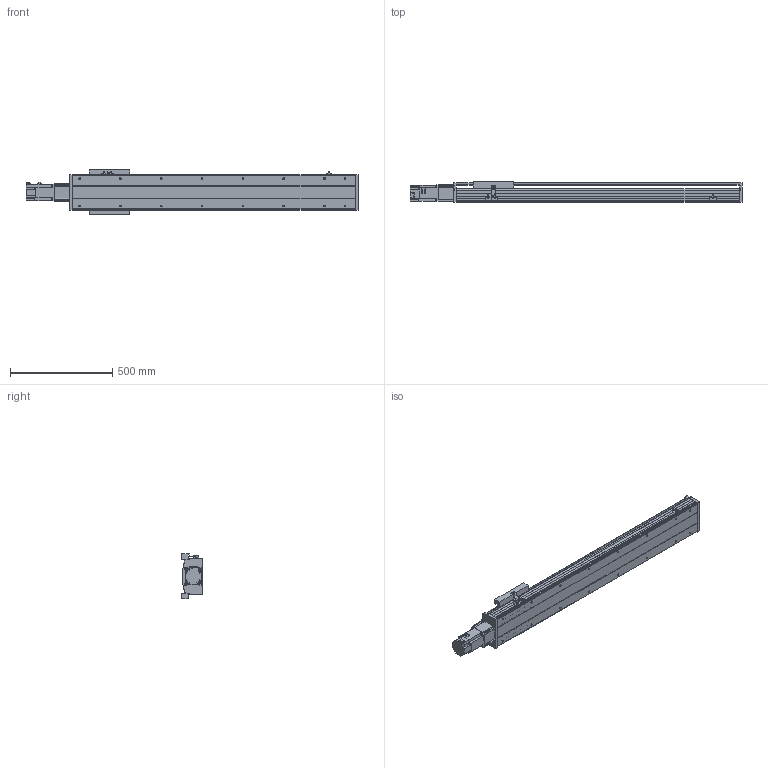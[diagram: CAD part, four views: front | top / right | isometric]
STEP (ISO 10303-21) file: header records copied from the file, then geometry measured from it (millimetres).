
FILE_DESCRIPTION(/* description */ ('STEP AP214'),/* implementation_level */ '2;1');
FILE_NAME(/* name */ 'PSS200-L10-S1050-BC-T75-C1-N(0)',/* time_stamp */ '2022-06-06T04:37:03+02:00',/* author */ ('License CC BY-ND 4.0'),/* organization */ ('CADENAS'),/* preprocessor_version */ 'ST-DEVELOPER v18.102',/* originating_system */ 'PARTsolutions',/* authorisation */ ' ');
FILE_SCHEMA (('AUTOMOTIVE_DESIGN {1 0 10303 214 3 1 1}'));
Length unit declared in the file: millimetre
Products named in the file (8): PSS200-L10-S1050-BC-T75-C1-N(0); PSS200-S1050-BC-N_S; T75-p1; PSS200BC-N_h; PSS200-N_sensor; PSS200-BC-C1-N_sl; PSS200-N_Q; PSS200-S1050-BC-C1-N_body
Assembly tree (9 placements, depth 2):
  PSS200-L10-S1050-BC-T75-C1-N(0)
    PSS200-S1050-BC-N_S
    T75-p1
    PSS200BC-N_h
    PSS200-N_sensor  x3
    PSS200-BC-C1-N_sl
    PSS200-N_Q
    PSS200-S1050-BC-C1-N_body
Bounding box: 1626.3 x 101.5 x 223.86 mm (x, y, z)
Volume: 8821880.8 mm3; surface area: 2270992.8 mm2
Topology: 9 solids, 9 shells, 585 faces, 1567 edges, 1040 vertices
Faces by surface type: plane 439, cylinder 122, cone 24
Full cylindrical faces by diameter (mm): 4 x2, 4.5 x4, 6 x11, 6.647 x20, 8 x8, 10 x6, 25 x1, 67 x1, 70 x1
Entity records: 16274 total; most frequent: CARTESIAN_POINT 2812, DIRECTION 2681, ORIENTED_EDGE 2654, EDGE_CURVE 1327, LINE 1051, VECTOR 1051, VERTEX_POINT 926, AXIS2_PLACEMENT_3D 815
